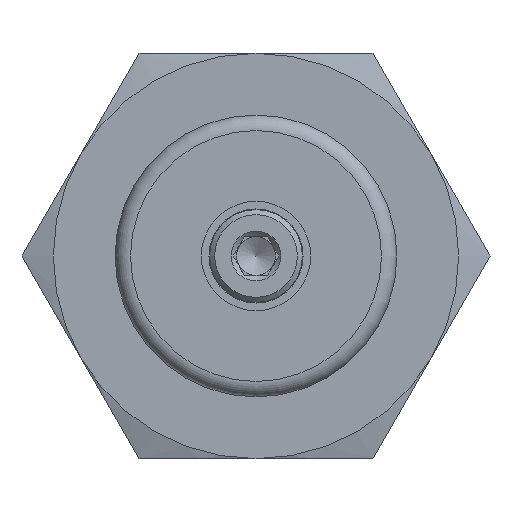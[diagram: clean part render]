
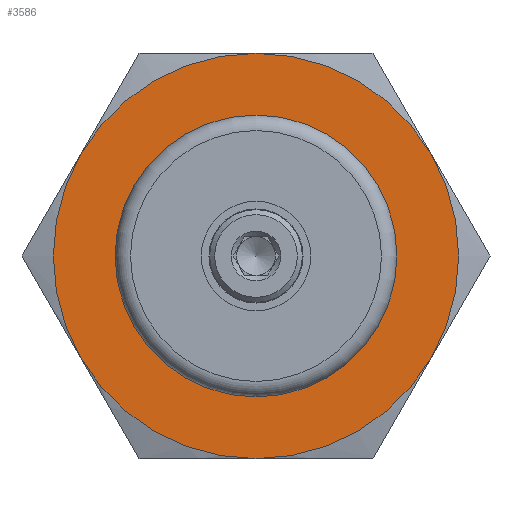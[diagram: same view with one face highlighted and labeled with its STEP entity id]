
A CAD part, left-side view. The second image highlights one B-rep face of the part: STEP entity #3586.
In plain terms, the highlighted planar face has unit normal (-1, 0, 0).
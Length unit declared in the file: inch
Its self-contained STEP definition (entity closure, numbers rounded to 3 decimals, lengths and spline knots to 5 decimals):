
#2949=CARTESIAN_POINT('',(-0.63,0.565,0.));
#2950=VERTEX_POINT('',#2949);
#2951=CARTESIAN_POINT('',(-0.63,0.0,0.));
#2952=DIRECTION('',(1.0,0.0,0.0));
#2953=DIRECTION('',(0.0,1.0,0.0));
#2954=AXIS2_PLACEMENT_3D('',#2951,#2952,#2953);
#2955=CIRCLE('',#2954,0.565);
#2956=EDGE_CURVE('',#2950,#2950,#2955,.T.);
#2992=CARTESIAN_POINT('',(-0.63,0.70365,0.40625));
#2993=VERTEX_POINT('',#2992);
#3074=CARTESIAN_POINT('',(-0.63,0.70365,-0.40625));
#3075=VERTEX_POINT('',#3074);
#3138=CARTESIAN_POINT('',(-0.63,0.0,0.8125));
#3139=VERTEX_POINT('',#3138);
#3233=CARTESIAN_POINT('',(-0.63,0.0,-0.8125));
#3234=VERTEX_POINT('',#3233);
#3306=CARTESIAN_POINT('',(-0.63,-0.70365,-0.40625));
#3307=VERTEX_POINT('',#3306);
#3370=CARTESIAN_POINT('',(-0.63,-0.70365,0.40625));
#3371=VERTEX_POINT('',#3370);
#3408=CARTESIAN_POINT('',(-0.63,0.0,0.));
#3409=DIRECTION('',(-1.0,0.0,0.0));
#3410=DIRECTION('',(0.0,0.0,1.0));
#3411=AXIS2_PLACEMENT_3D('',#3408,#3409,#3410);
#3412=CIRCLE('',#3411,0.8125);
#3413=EDGE_CURVE('',#3075,#3234,#3412,.T.);
#3425=CARTESIAN_POINT('',(-0.63,0.0,0.));
#3426=DIRECTION('',(-1.0,0.0,0.0));
#3427=DIRECTION('',(0.0,0.0,1.0));
#3428=AXIS2_PLACEMENT_3D('',#3425,#3426,#3427);
#3429=CIRCLE('',#3428,0.8125);
#3430=EDGE_CURVE('',#3234,#3307,#3429,.T.);
#3442=CARTESIAN_POINT('',(-0.63,0.0,0.));
#3443=DIRECTION('',(-1.0,0.0,0.0));
#3444=DIRECTION('',(0.0,0.0,1.0));
#3445=AXIS2_PLACEMENT_3D('',#3442,#3443,#3444);
#3446=CIRCLE('',#3445,0.8125);
#3447=EDGE_CURVE('',#3307,#3371,#3446,.T.);
#3460=CARTESIAN_POINT('',(-0.63,0.0,0.));
#3461=DIRECTION('',(-1.0,0.0,0.0));
#3462=DIRECTION('',(0.0,0.0,1.0));
#3463=AXIS2_PLACEMENT_3D('',#3460,#3461,#3462);
#3464=CIRCLE('',#3463,0.8125);
#3465=EDGE_CURVE('',#3371,#3139,#3464,.T.);
#3477=CARTESIAN_POINT('',(-0.63,0.0,0.));
#3478=DIRECTION('',(-1.0,0.0,0.0));
#3479=DIRECTION('',(0.0,0.0,1.0));
#3480=AXIS2_PLACEMENT_3D('',#3477,#3478,#3479);
#3481=CIRCLE('',#3480,0.8125);
#3482=EDGE_CURVE('',#3139,#2993,#3481,.T.);
#3494=CARTESIAN_POINT('',(-0.63,0.0,0.));
#3495=DIRECTION('',(-1.0,0.0,0.0));
#3496=DIRECTION('',(0.0,0.0,1.0));
#3497=AXIS2_PLACEMENT_3D('',#3494,#3495,#3496);
#3498=CIRCLE('',#3497,0.8125);
#3499=EDGE_CURVE('',#2993,#3075,#3498,.T.);
#3570=CARTESIAN_POINT('',(-0.63,0.,0.));
#3571=DIRECTION('',(-1.0,0.0,0.0));
#3572=DIRECTION('',(0.0,0.0,1.0));
#3573=AXIS2_PLACEMENT_3D('',#3570,#3571,#3572);
#3574=PLANE('',#3573);
#3575=ORIENTED_EDGE('',*,*,#3413,.T.);
#3576=ORIENTED_EDGE('',*,*,#3430,.T.);
#3577=ORIENTED_EDGE('',*,*,#3447,.T.);
#3578=ORIENTED_EDGE('',*,*,#3465,.T.);
#3579=ORIENTED_EDGE('',*,*,#3482,.T.);
#3580=ORIENTED_EDGE('',*,*,#3499,.T.);
#3581=EDGE_LOOP('',(#3575,#3576,#3577,#3578,#3579,#3580));
#3582=FACE_OUTER_BOUND('',#3581,.T.);
#3583=ORIENTED_EDGE('',*,*,#2956,.T.);
#3584=EDGE_LOOP('',(#3583));
#3585=FACE_BOUND('',#3584,.T.);
#3586=ADVANCED_FACE('',(#3582,#3585),#3574,.T.);
